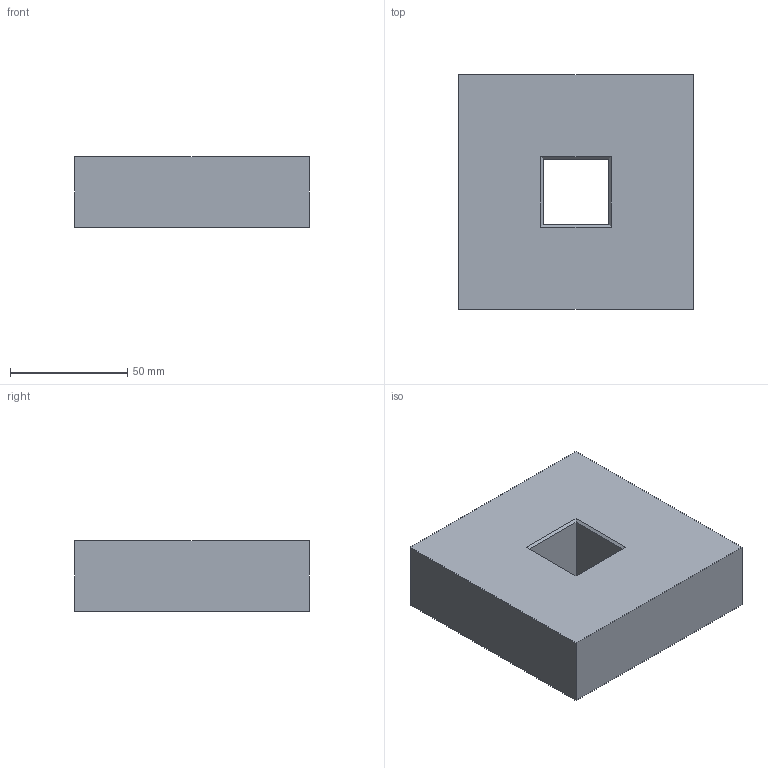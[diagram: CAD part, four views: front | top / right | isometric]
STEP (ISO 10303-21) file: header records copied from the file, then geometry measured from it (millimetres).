
FILE_DESCRIPTION(('Open CASCADE Model'),'2;1');
FILE_NAME('Open CASCADE Shape Model','2026-10-21T16:53:51',('Author'),( 'Open CASCADE'),'Open CASCADE STEP processor 7.9','Open CASCADE 7.9' ,'Unknown');
FILE_SCHEMA(('AUTOMOTIVE_DESIGN { 1 0 10303 214 1 1 1 1 }'));
Length unit declared in the file: millimetre
Products named in the file (1): Open CASCADE STEP translator 7.9 9
Bounding box: 100 x 100 x 30 mm (x, y, z)
Volume: 275376.7 mm3; surface area: 34138.2 mm2
Topology: 1 solids, 1 shells, 22 faces, 44 edges, 28 vertices
Faces by surface type: plane 14, bspline 4, cylinder 4
Full cylindrical faces by diameter (mm): 10.2 x4
Entity records: 1154 total; most frequent: CARTESIAN_POINT 227, DIRECTION 166, LINE 108, VECTOR 108, ORIENTED_EDGE 88, PCURVE 88, DEFINITIONAL_REPRESENTATION 88, EDGE_CURVE 44
